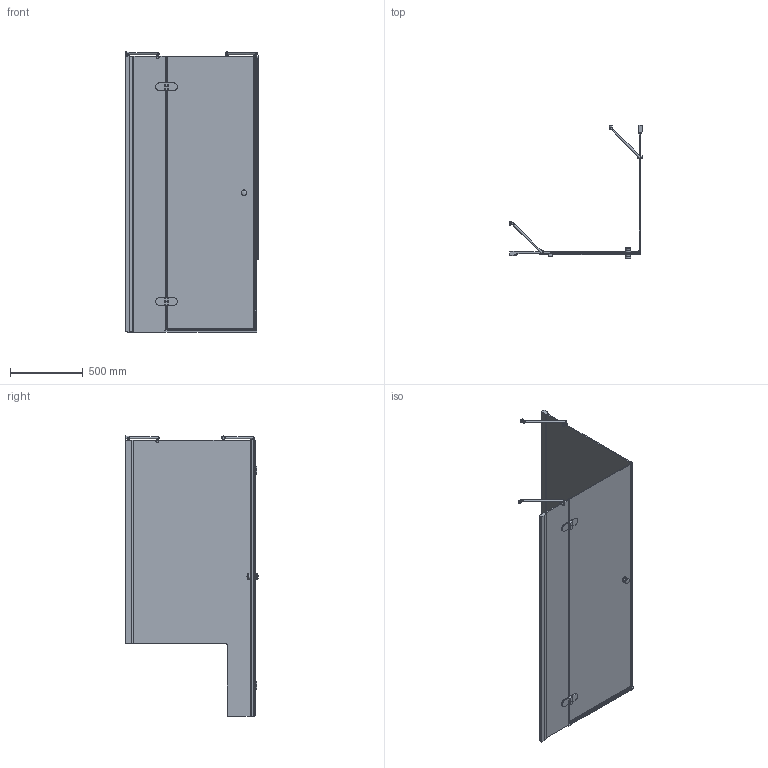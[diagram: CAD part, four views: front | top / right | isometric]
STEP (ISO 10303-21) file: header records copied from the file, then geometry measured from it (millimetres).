
FILE_DESCRIPTION(/* description */ (''),/* implementation_level */ '2;1');
FILE_NAME(/* name */ 'E:\Работа\Сергей\Душевые кабинки\! Работа\LUX SQUARE GK-003V1PP\LUX SQUARE GK-003V1PP левая модель\LUX SQUARE GK-003V1PP ЛЕВАЯ-3D.stp',/* time_stamp */ '2017-05-22T19:33:16+03:00',/* author */ ('User'),/* organization */ (''),/* preprocessor_version */ 'ST-DEVELOPER v15.2',/* originating_system */ 'Autodesk Inventor 2014',/* authorisation */ '');
FILE_SCHEMA (('CONFIG_CONTROL_DESIGN'));
Length unit declared in the file: millimetre
Products named in the file (1): LUX SQUARE GK-003V1PP ЛЕВАЯ-3D
Bounding box: 913.94 x 917.14 x 1931.5 mm (x, y, z)
Volume: 25050908 mm3; surface area: 6477569.2 mm2
Topology: 6 solids, 6 shells, 518 faces, 1433 edges, 945 vertices
Faces by surface type: plane 347, cylinder 142, torus 15, sphere 8, bspline 6
Full cylindrical faces by diameter (mm): 12 x2, 15 x2, 20 x4, 26 x2, 38 x4
Entity records: 17329 total; most frequent: CARTESIAN_POINT 3591, ORIENTED_EDGE 2778, DIRECTION 2673, EDGE_CURVE 1389, LINE 1013, VECTOR 1013, VERTEX_POINT 925, AXIS2_PLACEMENT_3D 830
